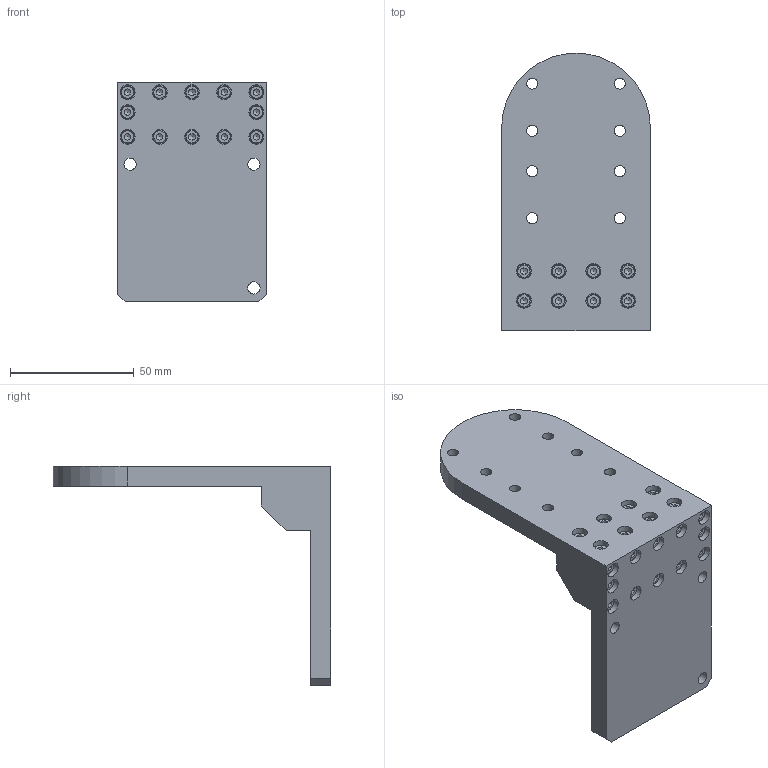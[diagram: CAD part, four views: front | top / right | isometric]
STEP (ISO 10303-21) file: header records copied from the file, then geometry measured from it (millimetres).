
FILE_DESCRIPTION(/* description */ (''),/* implementation_level */ '2;1');
FILE_NAME(/* name */ 'U:\KONSTRUKTORIAI\DOKUMENTACIJA\2\2AB\2AB151-001\STEP\2AB151-001.stp',/* time_stamp */ '2016-12-21T13:16:50+02:00',/* author */ ('dsgn39'),/* organization */ (''),/* preprocessor_version */ 'ST-DEVELOPER v15.2',/* originating_system */ 'Autodesk Inventor 2014',/* authorisation */ '');
FILE_SCHEMA (('AUTOMOTIVE_DESIGN { 1 0 10303 214 3 1 1 }'));
Length unit declared in the file: millimetre
Products named in the file (2): Part2; Assembly1
Bounding box: 60 x 112 x 88.5 mm (x, y, z)
Volume: 103112.1 mm3; surface area: 32777 mm2
Topology: 1 solids, 41 shells, 460 faces, 1016 edges, 666 vertices
Faces by surface type: plane 240, cylinder 120, cone 60, torus 40
Full cylindrical faces by diameter (mm): 2.459 x15, 2.487 x5, 3 x20, 3.4 x20, 4.5 x8, 4.917 x3, 5.5 x20, 6 x20, 8 x8
Entity records: 10563 total; most frequent: CARTESIAN_POINT 1954, DIRECTION 1797, ORIENTED_EDGE 1382, EDGE_LOOP 769, AXIS2_PLACEMENT_3D 763, EDGE_CURVE 691, VERTEX_POINT 560, ADVANCED_FACE 460
